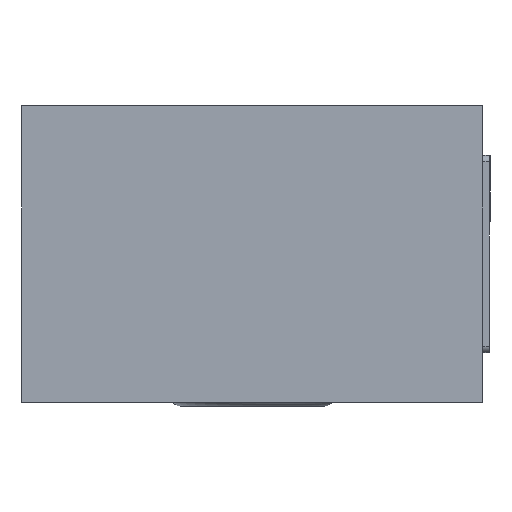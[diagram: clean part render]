
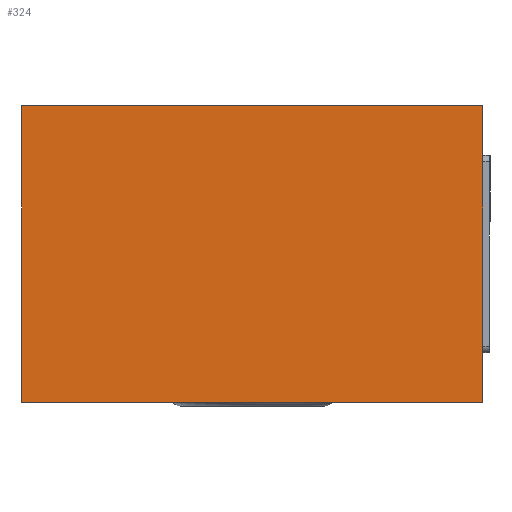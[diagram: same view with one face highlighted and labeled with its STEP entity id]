
A CAD part, left-side view. The second image highlights one B-rep face of the part: STEP entity #324.
In plain terms, the highlighted planar face has unit normal (-1, 0, 0).
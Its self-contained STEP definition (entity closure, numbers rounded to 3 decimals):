
#106=FACE_OUTER_BOUND('',#615,.T.);
#145=PLANE('',#1450);
#189=LINE('',#2074,#252);
#191=LINE('',#2095,#254);
#194=LINE('',#2119,#257);
#196=LINE('',#2122,#259);
#252=VECTOR('',#1614,1.);
#254=VECTOR('',#1640,1.);
#257=VECTOR('',#1663,1.);
#259=VECTOR('',#1667,1.);
#324=ADVANCED_FACE('',(#106),#145,.F.);
#615=EDGE_LOOP('',(#796,#797,#798,#799));
#796=ORIENTED_EDGE('',*,*,#1202,.T.);
#797=ORIENTED_EDGE('',*,*,#1227,.F.);
#798=ORIENTED_EDGE('',*,*,#1213,.F.);
#799=ORIENTED_EDGE('',*,*,#1225,.T.);
#1072=VERTEX_POINT('',#2069);
#1074=VERTEX_POINT('',#2073);
#1081=VERTEX_POINT('',#2094);
#1082=VERTEX_POINT('',#2096);
#1202=EDGE_CURVE('',#1072,#1074,#189,.T.);
#1213=EDGE_CURVE('',#1081,#1082,#191,.T.);
#1225=EDGE_CURVE('',#1081,#1072,#194,.T.);
#1227=EDGE_CURVE('',#1082,#1074,#196,.T.);
#1450=AXIS2_PLACEMENT_3D('',#2123,#1668,#1669);
#1614=DIRECTION('',(0.,1.,0.));
#1640=DIRECTION('',(0.,1.,0.));
#1663=DIRECTION('',(0.,0.,1.));
#1667=DIRECTION('',(0.,0.,1.));
#1668=DIRECTION('',(1.,0.,0.));
#1669=DIRECTION('',(0.,0.,1.));
#2069=CARTESIAN_POINT('',(-142.078,37.475,45.));
#2073=CARTESIAN_POINT('',(-142.078,107.477,45.));
#2074=CARTESIAN_POINT('',(-142.078,37.475,45.));
#2094=CARTESIAN_POINT('',(-142.078,37.475,0.));
#2095=CARTESIAN_POINT('',(-142.078,37.475,0.));
#2096=CARTESIAN_POINT('',(-142.078,107.477,0.));
#2119=CARTESIAN_POINT('',(-142.078,37.475,0.));
#2122=CARTESIAN_POINT('',(-142.078,107.477,0.));
#2123=CARTESIAN_POINT('',(-142.078,37.475,0.));
